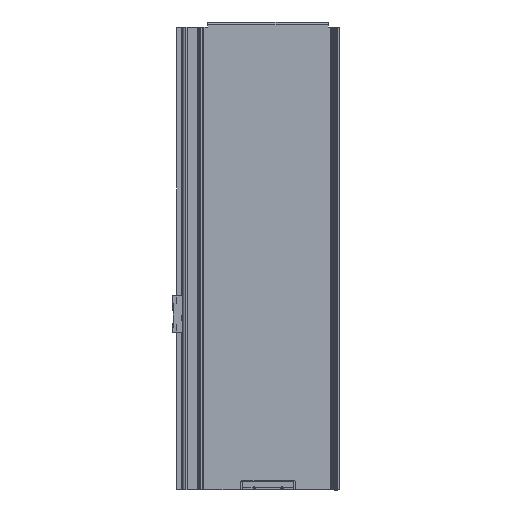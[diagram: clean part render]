
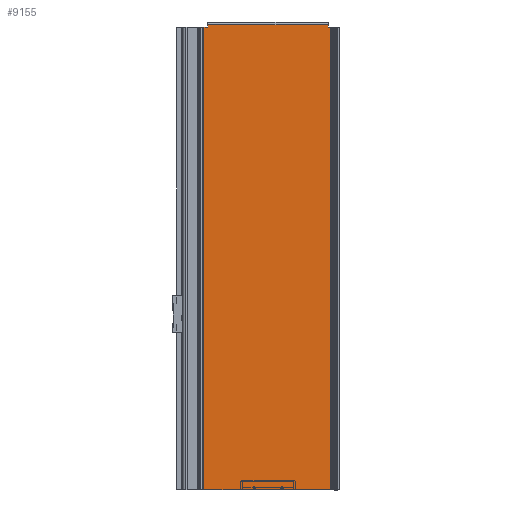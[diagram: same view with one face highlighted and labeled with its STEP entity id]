
A CAD part, left-side view. The second image highlights one B-rep face of the part: STEP entity #9155.
In plain terms, the highlighted planar face has unit normal (-1, 0, 0) as drawn and (1, 0, 0) by its records, which use the part's own axes.
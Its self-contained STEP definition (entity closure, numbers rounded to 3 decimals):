
#271=PLANE('',#9974);
#758=LINE('',#14776,#1502);
#763=LINE('',#14791,#1507);
#768=LINE('',#14800,#1512);
#769=LINE('',#14803,#1513);
#806=LINE('',#14928,#1550);
#824=LINE('',#14976,#1568);
#825=LINE('',#14979,#1569);
#826=LINE('',#14980,#1570);
#1502=VECTOR('',#11856,10.);
#1507=VECTOR('',#11871,10.);
#1512=VECTOR('',#11878,10.);
#1513=VECTOR('',#11881,10.);
#1550=VECTOR('',#11988,10.);
#1568=VECTOR('',#12042,10.);
#1569=VECTOR('',#12045,10.);
#1570=VECTOR('',#12046,10.);
#2243=FACE_OUTER_BOUND('',#2805,.T.);
#2805=EDGE_LOOP('',(#7184,#7185,#7186,#7187,#7188,#7189,#7190,#7191));
#3986=VERTEX_POINT('',#14772);
#3987=VERTEX_POINT('',#14774);
#3992=VERTEX_POINT('',#14790);
#3995=VERTEX_POINT('',#14798);
#3996=VERTEX_POINT('',#14802);
#4049=VERTEX_POINT('',#14926);
#4061=VERTEX_POINT('',#14974);
#4062=VERTEX_POINT('',#14978);
#5063=EDGE_CURVE('',#3986,#3987,#758,.T.);
#5070=EDGE_CURVE('',#3992,#3986,#763,.T.);
#5075=EDGE_CURVE('',#3987,#3995,#768,.T.);
#5076=EDGE_CURVE('',#3996,#3992,#769,.T.);
#5139=EDGE_CURVE('',#3995,#4049,#806,.T.);
#5163=EDGE_CURVE('',#4061,#4049,#824,.T.);
#5164=EDGE_CURVE('',#4062,#4061,#825,.T.);
#5165=EDGE_CURVE('',#4062,#3996,#826,.T.);
#7184=ORIENTED_EDGE('',*,*,#5164,.F.);
#7185=ORIENTED_EDGE('',*,*,#5165,.T.);
#7186=ORIENTED_EDGE('',*,*,#5076,.T.);
#7187=ORIENTED_EDGE('',*,*,#5070,.T.);
#7188=ORIENTED_EDGE('',*,*,#5063,.T.);
#7189=ORIENTED_EDGE('',*,*,#5075,.T.);
#7190=ORIENTED_EDGE('',*,*,#5139,.T.);
#7191=ORIENTED_EDGE('',*,*,#5163,.F.);
#9155=ADVANCED_FACE('',(#2243),#271,.F.);
#9974=AXIS2_PLACEMENT_3D('',#14977,#12043,#12044);
#11856=DIRECTION('',(0.,-1.,0.));
#11871=DIRECTION('',(0.,0.,1.));
#11878=DIRECTION('',(0.,0.,-1.));
#11881=DIRECTION('',(0.,-1.,0.));
#11988=DIRECTION('',(0.,-1.,0.));
#12042=DIRECTION('',(0.,0.,1.));
#12043=DIRECTION('center_axis',(-1.,0.,0.));
#12044=DIRECTION('ref_axis',(0.,-1.,0.));
#12045=DIRECTION('',(0.,-1.,0.));
#12046=DIRECTION('',(0.,0.,1.));
#14772=CARTESIAN_POINT('',(4.9,145.,445.6));
#14774=CARTESIAN_POINT('',(4.9,29.5,445.6));
#14776=CARTESIAN_POINT('',(4.9,145.,445.6));
#14790=CARTESIAN_POINT('',(4.9,145.,443.));
#14791=CARTESIAN_POINT('',(4.9,145.,443.));
#14798=CARTESIAN_POINT('',(4.9,29.5,443.));
#14800=CARTESIAN_POINT('',(4.9,29.5,443.));
#14802=CARTESIAN_POINT('',(4.9,147.342,443.));
#14803=CARTESIAN_POINT('',(4.9,147.342,443.));
#14926=CARTESIAN_POINT('',(4.9,25.9,443.));
#14928=CARTESIAN_POINT('',(4.9,147.342,443.));
#14974=CARTESIAN_POINT('',(4.9,25.9,0.));
#14976=CARTESIAN_POINT('',(4.9,25.9,0.));
#14977=CARTESIAN_POINT('Origin',(4.9,147.342,0.));
#14978=CARTESIAN_POINT('',(4.9,147.342,0.));
#14979=CARTESIAN_POINT('',(4.9,147.342,0.));
#14980=CARTESIAN_POINT('',(4.9,147.342,0.));
